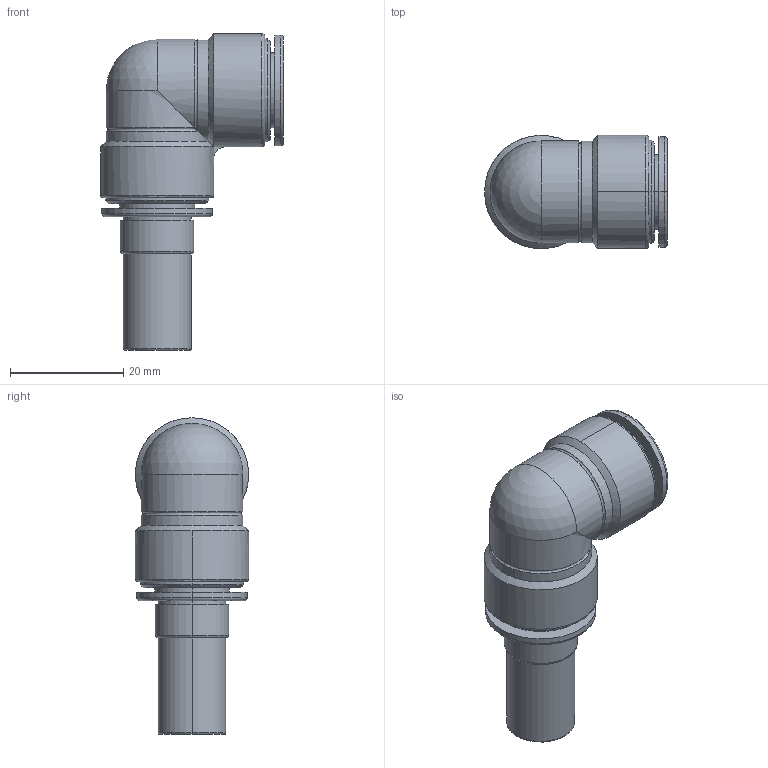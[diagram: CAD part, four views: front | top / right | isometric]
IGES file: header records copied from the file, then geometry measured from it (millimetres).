
Global section: file name: No Iges File Name specified; native system: AutoDesk Inventor R11.0; preprocessor: AutoDesk Inventor Iges Exporter R11.0; author: No Author specified; organization: No Organization specified; date: 20120321.163452; units: millimetre
Bounding box: 32.3 x 20 x 55.9 mm (x, y, z)
Volume: 10751.7 mm3; surface area: 6443.1 mm2
Topology: 1 solids, 1 shells, 70 faces, 153 edges, 94 vertices
Faces by surface type: cylinder 22, bspline 15, plane 13, torus 10, cone 5, revolution 4, sphere 1
